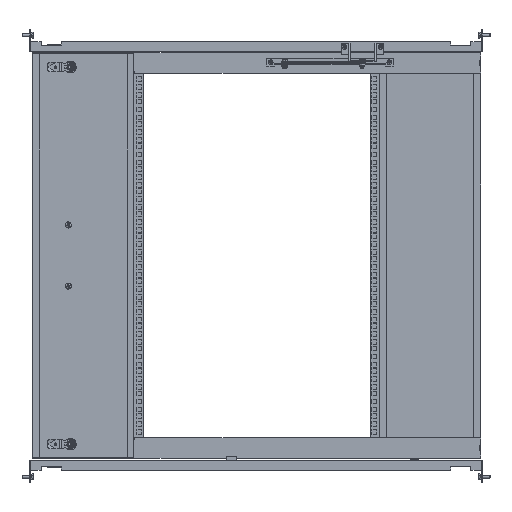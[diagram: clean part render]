
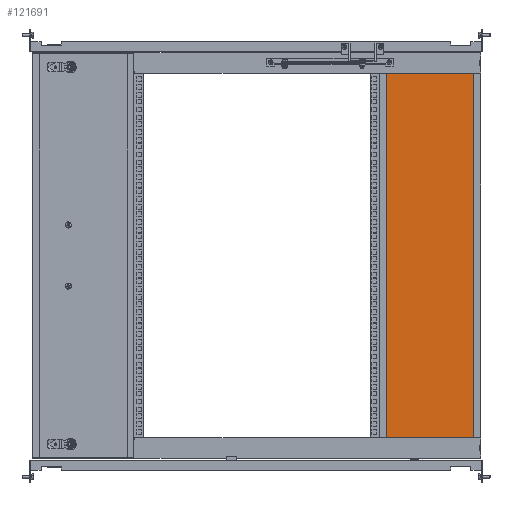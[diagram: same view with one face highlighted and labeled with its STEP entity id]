
A CAD part, top view. The second image highlights one B-rep face of the part: STEP entity #121691.
In plain terms, the highlighted planar face has unit normal (0, 0, 1).
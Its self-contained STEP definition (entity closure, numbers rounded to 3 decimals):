
#121352 = VERTEX_POINT('',#121353);
#121353 = CARTESIAN_POINT('',(-98.5,-358.9,0.));
#121359 = EDGE_CURVE('',#121360,#121352,#121362,.T.);
#121360 = VERTEX_POINT('',#121361);
#121361 = CARTESIAN_POINT('',(-98.5,358.9,0.));
#121362 = LINE('',#121363,#121364);
#121363 = CARTESIAN_POINT('',(-98.5,0.,
    0.));
#121364 = VECTOR('',#121365,1.);
#121365 = DIRECTION('',(0.,-1.,-0.));
#121572 = VERTEX_POINT('',#121573);
#121573 = CARTESIAN_POINT('',(98.5,358.9,0.));
#121579 = EDGE_CURVE('',#121580,#121572,#121582,.T.);
#121580 = VERTEX_POINT('',#121581);
#121581 = CARTESIAN_POINT('',(98.5,-358.9,0.));
#121582 = LINE('',#121583,#121584);
#121583 = CARTESIAN_POINT('',(98.5,0.,
    0.));
#121584 = VECTOR('',#121585,1.);
#121585 = DIRECTION('',(0.,1.,0.));
#121691 = ADVANCED_FACE('',(#121692),#121772,.T.);
#121692 = FACE_BOUND('',#121693,.T.);
#121693 = EDGE_LOOP('',(#121694,#121704,#121710,#121711,#121719,#121727,
    #121735,#121743,#121749,#121750,#121758,#121766));
#121694 = ORIENTED_EDGE('',*,*,#121695,.F.);
#121695 = EDGE_CURVE('',#121696,#121698,#121700,.T.);
#121696 = VERTEX_POINT('',#121697);
#121697 = CARTESIAN_POINT('',(-97.9,358.9,0.));
#121698 = VERTEX_POINT('',#121699);
#121699 = CARTESIAN_POINT('',(-97.9,359.5,0.));
#121700 = LINE('',#121701,#121702);
#121701 = CARTESIAN_POINT('',(-97.9,0.,0.));
#121702 = VECTOR('',#121703,1.);
#121703 = DIRECTION('',(-0.,1.,-0.));
#121704 = ORIENTED_EDGE('',*,*,#121705,.T.);
#121705 = EDGE_CURVE('',#121696,#121360,#121706,.T.);
#121706 = LINE('',#121707,#121708);
#121707 = CARTESIAN_POINT('',(-97.9,358.9,0.));
#121708 = VECTOR('',#121709,1.);
#121709 = DIRECTION('',(-1.,-0.,-0.));
#121710 = ORIENTED_EDGE('',*,*,#121359,.T.);
#121711 = ORIENTED_EDGE('',*,*,#121712,.F.);
#121712 = EDGE_CURVE('',#121713,#121352,#121715,.T.);
#121713 = VERTEX_POINT('',#121714);
#121714 = CARTESIAN_POINT('',(-97.9,-358.9,0.));
#121715 = LINE('',#121716,#121717);
#121716 = CARTESIAN_POINT('',(0.,-358.9,0.));
#121717 = VECTOR('',#121718,1.);
#121718 = DIRECTION('',(-1.,-0.,-0.));
#121719 = ORIENTED_EDGE('',*,*,#121720,.T.);
#121720 = EDGE_CURVE('',#121713,#121721,#121723,.T.);
#121721 = VERTEX_POINT('',#121722);
#121722 = CARTESIAN_POINT('',(-97.9,-359.5,0.));
#121723 = LINE('',#121724,#121725);
#121724 = CARTESIAN_POINT('',(-97.9,-358.9,0.));
#121725 = VECTOR('',#121726,1.);
#121726 = DIRECTION('',(-0.,-1.,-0.));
#121727 = ORIENTED_EDGE('',*,*,#121728,.T.);
#121728 = EDGE_CURVE('',#121721,#121729,#121731,.T.);
#121729 = VERTEX_POINT('',#121730);
#121730 = CARTESIAN_POINT('',(97.9,-359.5,0.));
#121731 = LINE('',#121732,#121733);
#121732 = CARTESIAN_POINT('',(0.,-359.5,0.));
#121733 = VECTOR('',#121734,1.);
#121734 = DIRECTION('',(1.,-0.,-0.));
#121735 = ORIENTED_EDGE('',*,*,#121736,.F.);
#121736 = EDGE_CURVE('',#121737,#121729,#121739,.T.);
#121737 = VERTEX_POINT('',#121738);
#121738 = CARTESIAN_POINT('',(97.9,-358.9,0.));
#121739 = LINE('',#121740,#121741);
#121740 = CARTESIAN_POINT('',(97.9,0.,0.));
#121741 = VECTOR('',#121742,1.);
#121742 = DIRECTION('',(-0.,-1.,-0.));
#121743 = ORIENTED_EDGE('',*,*,#121744,.T.);
#121744 = EDGE_CURVE('',#121737,#121580,#121745,.T.);
#121745 = LINE('',#121746,#121747);
#121746 = CARTESIAN_POINT('',(97.9,-358.9,0.));
#121747 = VECTOR('',#121748,1.);
#121748 = DIRECTION('',(1.,-0.,-0.));
#121749 = ORIENTED_EDGE('',*,*,#121579,.T.);
#121750 = ORIENTED_EDGE('',*,*,#121751,.F.);
#121751 = EDGE_CURVE('',#121752,#121572,#121754,.T.);
#121752 = VERTEX_POINT('',#121753);
#121753 = CARTESIAN_POINT('',(97.9,358.9,0.));
#121754 = LINE('',#121755,#121756);
#121755 = CARTESIAN_POINT('',(0.,358.9,0.));
#121756 = VECTOR('',#121757,1.);
#121757 = DIRECTION('',(1.,-0.,-0.));
#121758 = ORIENTED_EDGE('',*,*,#121759,.T.);
#121759 = EDGE_CURVE('',#121752,#121760,#121762,.T.);
#121760 = VERTEX_POINT('',#121761);
#121761 = CARTESIAN_POINT('',(97.9,359.5,0.));
#121762 = LINE('',#121763,#121764);
#121763 = CARTESIAN_POINT('',(97.9,358.9,0.));
#121764 = VECTOR('',#121765,1.);
#121765 = DIRECTION('',(0.,1.,-0.));
#121766 = ORIENTED_EDGE('',*,*,#121767,.F.);
#121767 = EDGE_CURVE('',#121698,#121760,#121768,.T.);
#121768 = LINE('',#121769,#121770);
#121769 = CARTESIAN_POINT('',(0.,359.5,0.));
#121770 = VECTOR('',#121771,1.);
#121771 = DIRECTION('',(1.,0.,0.));
#121772 = PLANE('',#121773);
#121773 = AXIS2_PLACEMENT_3D('',#121774,#121775,#121776);
#121774 = CARTESIAN_POINT('',(0.,0.,0.));
#121775 = DIRECTION('',(0.,-0.,1.));
#121776 = DIRECTION('',(1.,0.,0.));
